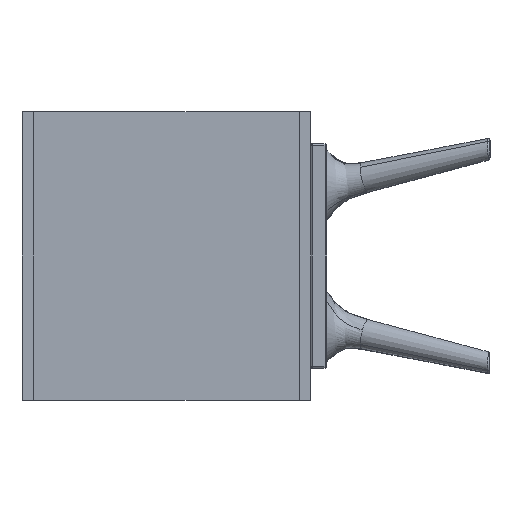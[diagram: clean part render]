
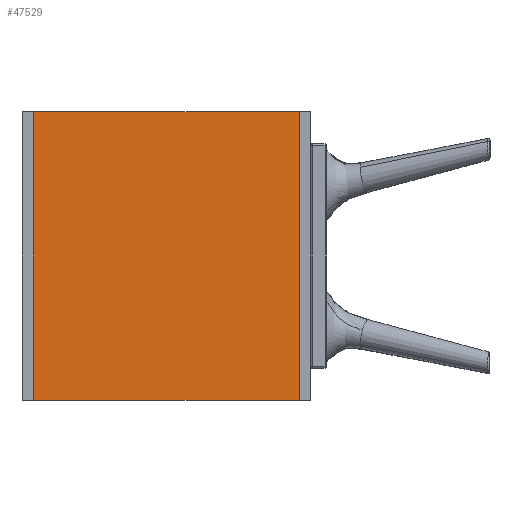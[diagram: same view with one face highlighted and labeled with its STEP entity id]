
A CAD part, left-side view. The second image highlights one B-rep face of the part: STEP entity #47529.
In plain terms, the highlighted planar face has unit normal (-1, 0, 0).
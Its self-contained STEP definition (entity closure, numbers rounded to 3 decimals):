
#1040 = DIRECTION ( 'NONE',  ( 0., 0., 1. ) ) ;
#3643 = DIRECTION ( 'NONE',  ( 0., -1., 0. ) ) ;
#4191 = VECTOR ( 'NONE', #10362, 1000. ) ;
#8611 = VERTEX_POINT ( 'NONE', #38359 ) ;
#9111 = CARTESIAN_POINT ( 'NONE',  ( -2000., 432., -450. ) ) ;
#9926 = FACE_OUTER_BOUND ( 'NONE', #37898, .T. ) ;
#10079 = ORIENTED_EDGE ( 'NONE', *, *, #42577, .F. ) ;
#10362 = DIRECTION ( 'NONE',  ( 0., 0., 1. ) ) ;
#13139 = VECTOR ( 'NONE', #38323, 1000. ) ;
#15178 = LINE ( 'NONE', #30143, #41021 ) ;
#15229 = CARTESIAN_POINT ( 'NONE',  ( -2000., 18., -450. ) ) ;
#16130 = EDGE_CURVE ( 'NONE', #8611, #21059, #42961, .T. ) ;
#18919 = VECTOR ( 'NONE', #45745, 1000. ) ;
#20453 = LINE ( 'NONE', #35995, #18919 ) ;
#20753 = VERTEX_POINT ( 'NONE', #9111 ) ;
#21059 = VERTEX_POINT ( 'NONE', #51480 ) ;
#24399 = ORIENTED_EDGE ( 'NONE', *, *, #47815, .F. ) ;
#24538 = LINE ( 'NONE', #57631, #13139 ) ;
#30143 = CARTESIAN_POINT ( 'NONE',  ( -2000., 432., -450. ) ) ;
#32169 = ORIENTED_EDGE ( 'NONE', *, *, #16130, .T. ) ;
#32742 = DIRECTION ( 'NONE',  ( 1., 0., 0. ) ) ;
#33128 = EDGE_CURVE ( 'NONE', #20753, #8611, #24538, .T. ) ;
#35995 = CARTESIAN_POINT ( 'NONE',  ( -2000., 432., 0. ) ) ;
#36038 = AXIS2_PLACEMENT_3D ( 'NONE', #61818, #32742, #3643 ) ;
#37563 = VERTEX_POINT ( 'NONE', #57792 ) ;
#37898 = EDGE_LOOP ( 'NONE', ( #32169, #10079, #24399, #59495 ) ) ;
#38323 = DIRECTION ( 'NONE',  ( 0., -1., 0. ) ) ;
#38359 = CARTESIAN_POINT ( 'NONE',  ( -2000., 18., -450. ) ) ;
#41021 = VECTOR ( 'NONE', #1040, 1000. ) ;
#42322 = PLANE ( 'NONE',  #36038 ) ;
#42577 = EDGE_CURVE ( 'NONE', #37563, #21059, #20453, .T. ) ;
#42961 = LINE ( 'NONE', #15229, #4191 ) ;
#45745 = DIRECTION ( 'NONE',  ( 0., -1., 0. ) ) ;
#47529 = ADVANCED_FACE ( 'NONE', ( #9926 ), #42322, .F. ) ;
#47815 = EDGE_CURVE ( 'NONE', #20753, #37563, #15178, .T. ) ;
#51480 = CARTESIAN_POINT ( 'NONE',  ( -2000., 18., 0. ) ) ;
#57631 = CARTESIAN_POINT ( 'NONE',  ( -2000., 432., -450. ) ) ;
#57792 = CARTESIAN_POINT ( 'NONE',  ( -2000., 432., 0. ) ) ;
#59495 = ORIENTED_EDGE ( 'NONE', *, *, #33128, .T. ) ;
#61818 = CARTESIAN_POINT ( 'NONE',  ( -2000., 432., -450. ) ) ;
